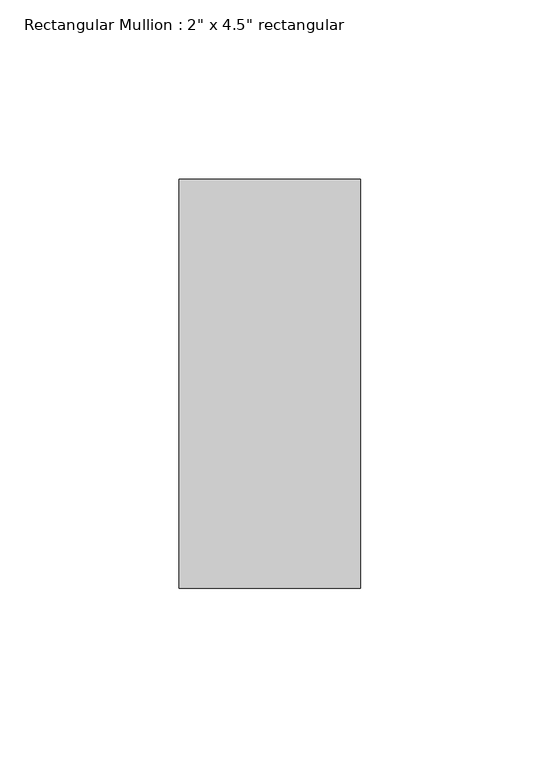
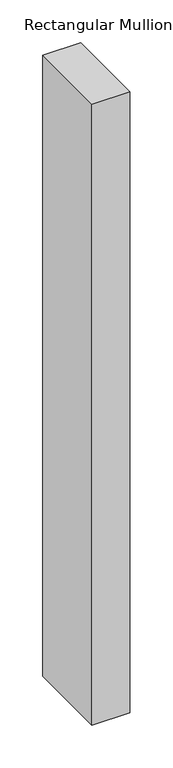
"""IFC4 building model written with IfcOpenShell, lengths in millimetres: member geometry."""

from ifc_helpers import new_model, si_unit, frame, origin, place, context, project, spatial, polyline, outline, extrude, source, transform, mapped, element, save


def member_e779ecf1(model_context):
    return source(origin(), model_context, "Body", "SweptSolid", [
        extrude(outline(polyline([(0.0, 57.15), (0.0, -57.15), (-50.8, -57.15), (-50.8, 57.15), (0.0, 57.15)])), frame((0.0, 0.0, -883.1466366), z_axis=(0.0, 0.0, 1.0), x_axis=(1.0, 0.0, 0.0)), (0.0, 0.0, 1.0), 883.1466366),
    ])


if __name__ == "__main__":
    model = new_model("IFC4")
    model_context = context("Model", 3, world=origin())
    ifc_project = project(units=[si_unit("LENGTHUNIT", "METRE", prefix="MILLI")], contexts=[model_context])
    site = spatial("IfcSite", under=ifc_project)
    building = spatial("IfcBuilding", under=site)
    placement = place(None, origin())
    member_shape = member_e779ecf1(model_context)
    element("IfcMember", 1, ObjectType="Rectangular Mullion : 2\" x 4.5\" rectangular", at=placement, inside=building, context=model_context, shape_type="MappedRepresentation", body=[
        mapped(member_shape, transform((0.0, 0.0, 0.0), x_axis=(1.0, 0.0, 0.0), y_axis=(0.0, 1.0, 0.0), z_axis=(0.0, 0.0, 1.0))),
    ])
    save(model, "model.ifc")
